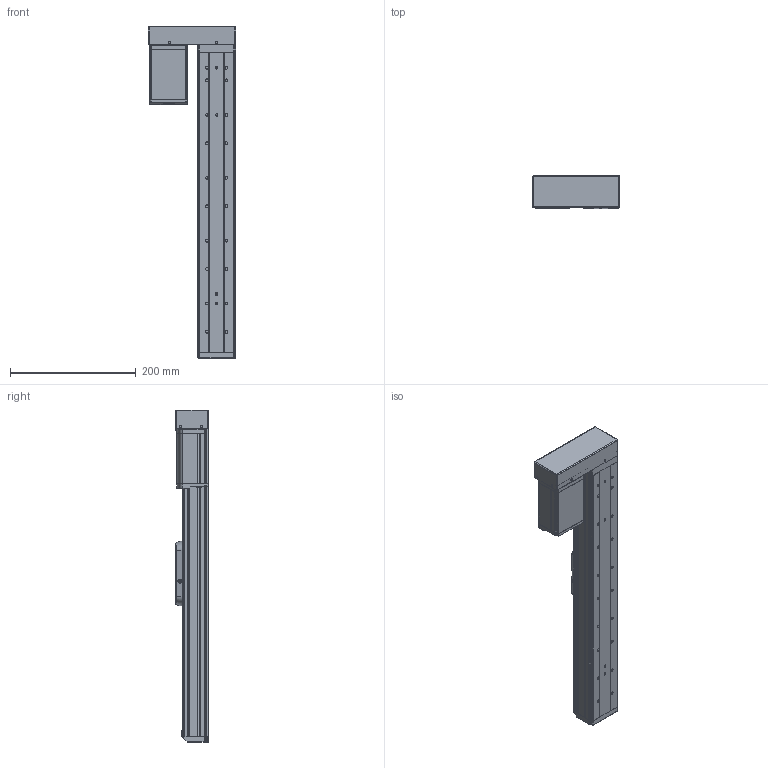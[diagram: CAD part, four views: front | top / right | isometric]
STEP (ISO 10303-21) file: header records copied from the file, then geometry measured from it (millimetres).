
FILE_DESCRIPTION (( 'STEP AP203' ), '1' );
FILE_NAME ('GERC60-350-FLXD.STEP', '2020-05-21T00:02:27', ( '' ), ( '' ), 'SwSTEP 2.0', 'SolidWorks 2019', '' );
FILE_SCHEMA (( 'CONFIG_CONTROL_DESIGN' ));
Length unit declared in the file: millimetre
Products named in the file (3): GERC60-350-FLXD; Group2^GERC60-350-FLXD_defeature_GMT; Group1^GERC60-350-FLXD_defeature_GMT
Assembly tree (2 placements, depth 2):
  GERC60-350-FLXD
    Group1^GERC60-350-FLXD_defeature_GMT
    Group2^GERC60-350-FLXD_defeature_GMT
Bounding box: 138.5 x 53 x 528 mm (x, y, z)
Volume: 993663 mm3; surface area: 319386.3 mm2
Topology: 4 solids, 4 shells, 1596 faces, 4097 edges, 2518 vertices
Faces by surface type: plane 714, cylinder 516, bspline 176, torus 108, cone 62, sphere 20
Entity records: 58379 total; most frequent: CARTESIAN_POINT 20197, ORIENTED_EDGE 8144, DIRECTION 7732, EDGE_CURVE 4072, AXIS2_PLACEMENT_3D 2709, VERTEX_POINT 2512, LINE 2314, VECTOR 2314
